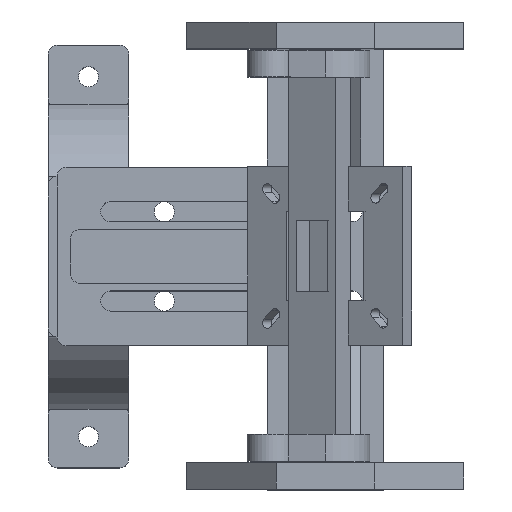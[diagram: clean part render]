
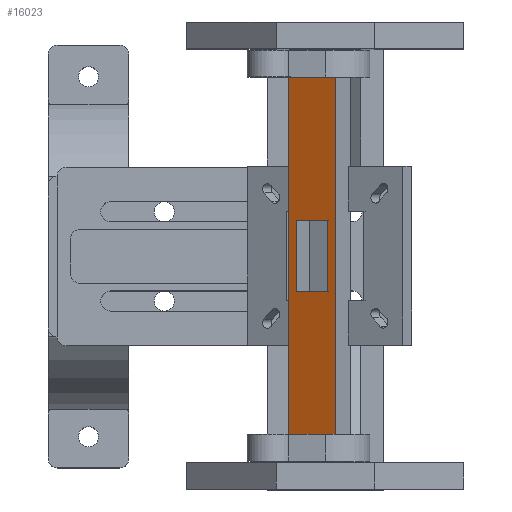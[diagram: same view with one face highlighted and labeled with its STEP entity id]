
A CAD part, top view. The second image highlights one B-rep face of the part: STEP entity #16023.
In plain terms, the highlighted planar face has unit normal (-0.5, 0, 0.866).
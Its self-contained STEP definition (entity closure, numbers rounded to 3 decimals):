
#13295 = PLANE('',#13296);
#13296 = AXIS2_PLACEMENT_3D('',#13297,#13298,#13299);
#13297 = CARTESIAN_POINT('',(10.196,-43.,123.496));
#13298 = DIRECTION('',(0.866,0.,0.5));
#13299 = DIRECTION('',(0.5,0.,-0.866));
#13682 = VERTEX_POINT('',#13683);
#13683 = CARTESIAN_POINT('',(10.196,40.,123.496));
#13697 = PLANE('',#13698);
#13698 = AXIS2_PLACEMENT_3D('',#13699,#13700,#13701);
#13699 = CARTESIAN_POINT('',(8.,40.,115.3));
#13700 = DIRECTION('',(-0.,-1.,0.));
#13701 = DIRECTION('',(-0.866,0.,-0.5));
#13709 = EDGE_CURVE('',#13710,#13682,#13712,.T.);
#13710 = VERTEX_POINT('',#13711);
#13711 = CARTESIAN_POINT('',(10.196,-40.,123.496));
#13712 = SURFACE_CURVE('',#13713,(#13717,#13724),.PCURVE_S1.);
#13713 = LINE('',#13714,#13715);
#13714 = CARTESIAN_POINT('',(10.196,-43.,123.496));
#13715 = VECTOR('',#13716,1.);
#13716 = DIRECTION('',(0.,1.,0.));
#13717 = PCURVE('',#13295,#13718);
#13718 = DEFINITIONAL_REPRESENTATION('',(#13719),#13723);
#13719 = LINE('',#13720,#13721);
#13720 = CARTESIAN_POINT('',(0.,0.));
#13721 = VECTOR('',#13722,1.);
#13722 = DIRECTION('',(0.,1.));
#13723 = ( GEOMETRIC_REPRESENTATION_CONTEXT(2) 
PARAMETRIC_REPRESENTATION_CONTEXT() REPRESENTATION_CONTEXT('2D SPACE',''
  ) );
#13724 = PCURVE('',#13725,#13730);
#13725 = PLANE('',#13726);
#13726 = AXIS2_PLACEMENT_3D('',#13727,#13728,#13729);
#13727 = CARTESIAN_POINT('',(-0.196,-43.,117.496));
#13728 = DIRECTION('',(0.5,0.,-0.866));
#13729 = DIRECTION('',(0.866,0.,0.5));
#13730 = DEFINITIONAL_REPRESENTATION('',(#13731),#13735);
#13731 = LINE('',#13732,#13733);
#13732 = CARTESIAN_POINT('',(12.,0.));
#13733 = VECTOR('',#13734,1.);
#13734 = DIRECTION('',(0.,-1.));
#13735 = ( GEOMETRIC_REPRESENTATION_CONTEXT(2) 
PARAMETRIC_REPRESENTATION_CONTEXT() REPRESENTATION_CONTEXT('2D SPACE',''
  ) );
#13753 = PLANE('',#13754);
#13754 = AXIS2_PLACEMENT_3D('',#13755,#13756,#13757);
#13755 = CARTESIAN_POINT('',(8.,-40.,115.3));
#13756 = DIRECTION('',(-0.,-1.,0.));
#13757 = DIRECTION('',(-0.866,0.,-0.5));
#13931 = PLANE('',#13932);
#13932 = AXIS2_PLACEMENT_3D('',#13933,#13934,#13935);
#13933 = CARTESIAN_POINT('',(-0.196,-43.,117.496));
#13934 = DIRECTION('',(0.866,0.,0.5));
#13935 = DIRECTION('',(0.5,0.,-0.866));
#14201 = VERTEX_POINT('',#14202);
#14202 = CARTESIAN_POINT('',(-0.196,40.,117.496));
#14223 = EDGE_CURVE('',#14224,#14201,#14226,.T.);
#14224 = VERTEX_POINT('',#14225);
#14225 = CARTESIAN_POINT('',(-0.196,-40.,117.496));
#14226 = SURFACE_CURVE('',#14227,(#14231,#14238),.PCURVE_S1.);
#14227 = LINE('',#14228,#14229);
#14228 = CARTESIAN_POINT('',(-0.196,-43.,117.496));
#14229 = VECTOR('',#14230,1.);
#14230 = DIRECTION('',(0.,1.,0.));
#14231 = PCURVE('',#13931,#14232);
#14232 = DEFINITIONAL_REPRESENTATION('',(#14233),#14237);
#14233 = LINE('',#14234,#14235);
#14234 = CARTESIAN_POINT('',(0.,0.));
#14235 = VECTOR('',#14236,1.);
#14236 = DIRECTION('',(0.,1.));
#14237 = ( GEOMETRIC_REPRESENTATION_CONTEXT(2) 
PARAMETRIC_REPRESENTATION_CONTEXT() REPRESENTATION_CONTEXT('2D SPACE',''
  ) );
#14238 = PCURVE('',#13725,#14239);
#14239 = DEFINITIONAL_REPRESENTATION('',(#14240),#14244);
#14240 = LINE('',#14241,#14242);
#14241 = CARTESIAN_POINT('',(0.,0.));
#14242 = VECTOR('',#14243,1.);
#14243 = DIRECTION('',(0.,-1.));
#14244 = ( GEOMETRIC_REPRESENTATION_CONTEXT(2) 
PARAMETRIC_REPRESENTATION_CONTEXT() REPRESENTATION_CONTEXT('2D SPACE',''
  ) );
#16002 = EDGE_CURVE('',#13682,#14201,#16003,.T.);
#16003 = SURFACE_CURVE('',#16004,(#16008,#16015),.PCURVE_S1.);
#16004 = LINE('',#16005,#16006);
#16005 = CARTESIAN_POINT('',(2.402,40.,118.996));
#16006 = VECTOR('',#16007,1.);
#16007 = DIRECTION('',(-0.866,0.,-0.5));
#16008 = PCURVE('',#13697,#16009);
#16009 = DEFINITIONAL_REPRESENTATION('',(#16010),#16014);
#16010 = LINE('',#16011,#16012);
#16011 = CARTESIAN_POINT('',(3.,-6.));
#16012 = VECTOR('',#16013,1.);
#16013 = DIRECTION('',(1.,0.));
#16014 = ( GEOMETRIC_REPRESENTATION_CONTEXT(2) 
PARAMETRIC_REPRESENTATION_CONTEXT() REPRESENTATION_CONTEXT('2D SPACE',''
  ) );
#16015 = PCURVE('',#13725,#16016);
#16016 = DEFINITIONAL_REPRESENTATION('',(#16017),#16021);
#16017 = LINE('',#16018,#16019);
#16018 = CARTESIAN_POINT('',(3.,-83.));
#16019 = VECTOR('',#16020,1.);
#16020 = DIRECTION('',(-1.,-0.));
#16021 = ( GEOMETRIC_REPRESENTATION_CONTEXT(2) 
PARAMETRIC_REPRESENTATION_CONTEXT() REPRESENTATION_CONTEXT('2D SPACE',''
  ) );
#16023 = ADVANCED_FACE('',(#16024,#16050),#13725,.F.);
#16024 = FACE_BOUND('',#16025,.F.);
#16025 = EDGE_LOOP('',(#16026,#16027,#16048,#16049));
#16026 = ORIENTED_EDGE('',*,*,#13709,.F.);
#16027 = ORIENTED_EDGE('',*,*,#16028,.T.);
#16028 = EDGE_CURVE('',#13710,#14224,#16029,.T.);
#16029 = SURFACE_CURVE('',#16030,(#16034,#16041),.PCURVE_S1.);
#16030 = LINE('',#16031,#16032);
#16031 = CARTESIAN_POINT('',(2.402,-40.,118.996));
#16032 = VECTOR('',#16033,1.);
#16033 = DIRECTION('',(-0.866,0.,-0.5));
#16034 = PCURVE('',#13725,#16035);
#16035 = DEFINITIONAL_REPRESENTATION('',(#16036),#16040);
#16036 = LINE('',#16037,#16038);
#16037 = CARTESIAN_POINT('',(3.,-3.));
#16038 = VECTOR('',#16039,1.);
#16039 = DIRECTION('',(-1.,-0.));
#16040 = ( GEOMETRIC_REPRESENTATION_CONTEXT(2) 
PARAMETRIC_REPRESENTATION_CONTEXT() REPRESENTATION_CONTEXT('2D SPACE',''
  ) );
#16041 = PCURVE('',#13753,#16042);
#16042 = DEFINITIONAL_REPRESENTATION('',(#16043),#16047);
#16043 = LINE('',#16044,#16045);
#16044 = CARTESIAN_POINT('',(3.,-6.));
#16045 = VECTOR('',#16046,1.);
#16046 = DIRECTION('',(1.,0.));
#16047 = ( GEOMETRIC_REPRESENTATION_CONTEXT(2) 
PARAMETRIC_REPRESENTATION_CONTEXT() REPRESENTATION_CONTEXT('2D SPACE',''
  ) );
#16048 = ORIENTED_EDGE('',*,*,#14223,.T.);
#16049 = ORIENTED_EDGE('',*,*,#16002,.F.);
#16050 = FACE_BOUND('',#16051,.F.);
#16051 = EDGE_LOOP('',(#16052,#16082,#16110,#16138));
#16052 = ORIENTED_EDGE('',*,*,#16053,.T.);
#16053 = EDGE_CURVE('',#16054,#16056,#16058,.T.);
#16054 = VERTEX_POINT('',#16055);
#16055 = CARTESIAN_POINT('',(1.536,8.,118.496));
#16056 = VERTEX_POINT('',#16057);
#16057 = CARTESIAN_POINT('',(1.536,-8.,118.496));
#16058 = SURFACE_CURVE('',#16059,(#16063,#16070),.PCURVE_S1.);
#16059 = LINE('',#16060,#16061);
#16060 = CARTESIAN_POINT('',(1.536,-25.5,118.496));
#16061 = VECTOR('',#16062,1.);
#16062 = DIRECTION('',(0.,-1.,0.));
#16063 = PCURVE('',#13725,#16064);
#16064 = DEFINITIONAL_REPRESENTATION('',(#16065),#16069);
#16065 = LINE('',#16066,#16067);
#16066 = CARTESIAN_POINT('',(2.,-17.5));
#16067 = VECTOR('',#16068,1.);
#16068 = DIRECTION('',(0.,1.));
#16069 = ( GEOMETRIC_REPRESENTATION_CONTEXT(2) 
PARAMETRIC_REPRESENTATION_CONTEXT() REPRESENTATION_CONTEXT('2D SPACE',''
  ) );
#16070 = PCURVE('',#16071,#16076);
#16071 = PLANE('',#16072);
#16072 = AXIS2_PLACEMENT_3D('',#16073,#16074,#16075);
#16073 = CARTESIAN_POINT('',(1.036,-8.,119.362));
#16074 = DIRECTION('',(0.866,0.,0.5));
#16075 = DIRECTION('',(0.5,0.,-0.866));
#16076 = DEFINITIONAL_REPRESENTATION('',(#16077),#16081);
#16077 = LINE('',#16078,#16079);
#16078 = CARTESIAN_POINT('',(1.,-17.5));
#16079 = VECTOR('',#16080,1.);
#16080 = DIRECTION('',(0.,-1.));
#16081 = ( GEOMETRIC_REPRESENTATION_CONTEXT(2) 
PARAMETRIC_REPRESENTATION_CONTEXT() REPRESENTATION_CONTEXT('2D SPACE',''
  ) );
#16082 = ORIENTED_EDGE('',*,*,#16083,.T.);
#16083 = EDGE_CURVE('',#16056,#16084,#16086,.T.);
#16084 = VERTEX_POINT('',#16085);
#16085 = CARTESIAN_POINT('',(8.464,-8.,122.496));
#16086 = SURFACE_CURVE('',#16087,(#16091,#16098),.PCURVE_S1.);
#16087 = LINE('',#16088,#16089);
#16088 = CARTESIAN_POINT('',(0.67,-8.,117.996));
#16089 = VECTOR('',#16090,1.);
#16090 = DIRECTION('',(0.866,0.,0.5));
#16091 = PCURVE('',#13725,#16092);
#16092 = DEFINITIONAL_REPRESENTATION('',(#16093),#16097);
#16093 = LINE('',#16094,#16095);
#16094 = CARTESIAN_POINT('',(1.,-35.));
#16095 = VECTOR('',#16096,1.);
#16096 = DIRECTION('',(1.,0.));
#16097 = ( GEOMETRIC_REPRESENTATION_CONTEXT(2) 
PARAMETRIC_REPRESENTATION_CONTEXT() REPRESENTATION_CONTEXT('2D SPACE',''
  ) );
#16098 = PCURVE('',#16099,#16104);
#16099 = PLANE('',#16100);
#16100 = AXIS2_PLACEMENT_3D('',#16101,#16102,#16103);
#16101 = CARTESIAN_POINT('',(1.036,-8.,119.362));
#16102 = DIRECTION('',(0.,1.,0.));
#16103 = DIRECTION('',(0.866,0.,0.5));
#16104 = DEFINITIONAL_REPRESENTATION('',(#16105),#16109);
#16105 = LINE('',#16106,#16107);
#16106 = CARTESIAN_POINT('',(-1.,1.));
#16107 = VECTOR('',#16108,1.);
#16108 = DIRECTION('',(1.,0.));
#16109 = ( GEOMETRIC_REPRESENTATION_CONTEXT(2) 
PARAMETRIC_REPRESENTATION_CONTEXT() REPRESENTATION_CONTEXT('2D SPACE',''
  ) );
#16110 = ORIENTED_EDGE('',*,*,#16111,.F.);
#16111 = EDGE_CURVE('',#16112,#16084,#16114,.T.);
#16112 = VERTEX_POINT('',#16113);
#16113 = CARTESIAN_POINT('',(8.464,8.,122.496));
#16114 = SURFACE_CURVE('',#16115,(#16119,#16126),.PCURVE_S1.);
#16115 = LINE('',#16116,#16117);
#16116 = CARTESIAN_POINT('',(8.464,-25.5,122.496));
#16117 = VECTOR('',#16118,1.);
#16118 = DIRECTION('',(0.,-1.,0.));
#16119 = PCURVE('',#13725,#16120);
#16120 = DEFINITIONAL_REPRESENTATION('',(#16121),#16125);
#16121 = LINE('',#16122,#16123);
#16122 = CARTESIAN_POINT('',(10.,-17.5));
#16123 = VECTOR('',#16124,1.);
#16124 = DIRECTION('',(0.,1.));
#16125 = ( GEOMETRIC_REPRESENTATION_CONTEXT(2) 
PARAMETRIC_REPRESENTATION_CONTEXT() REPRESENTATION_CONTEXT('2D SPACE',''
  ) );
#16126 = PCURVE('',#16127,#16132);
#16127 = PLANE('',#16128);
#16128 = AXIS2_PLACEMENT_3D('',#16129,#16130,#16131);
#16129 = CARTESIAN_POINT('',(7.964,-8.,123.362));
#16130 = DIRECTION('',(0.866,0.,0.5));
#16131 = DIRECTION('',(0.5,0.,-0.866));
#16132 = DEFINITIONAL_REPRESENTATION('',(#16133),#16137);
#16133 = LINE('',#16134,#16135);
#16134 = CARTESIAN_POINT('',(1.,-17.5));
#16135 = VECTOR('',#16136,1.);
#16136 = DIRECTION('',(0.,-1.));
#16137 = ( GEOMETRIC_REPRESENTATION_CONTEXT(2) 
PARAMETRIC_REPRESENTATION_CONTEXT() REPRESENTATION_CONTEXT('2D SPACE',''
  ) );
#16138 = ORIENTED_EDGE('',*,*,#16139,.F.);
#16139 = EDGE_CURVE('',#16054,#16112,#16140,.T.);
#16140 = SURFACE_CURVE('',#16141,(#16145,#16152),.PCURVE_S1.);
#16141 = LINE('',#16142,#16143);
#16142 = CARTESIAN_POINT('',(0.67,8.,117.996));
#16143 = VECTOR('',#16144,1.);
#16144 = DIRECTION('',(0.866,0.,0.5));
#16145 = PCURVE('',#13725,#16146);
#16146 = DEFINITIONAL_REPRESENTATION('',(#16147),#16151);
#16147 = LINE('',#16148,#16149);
#16148 = CARTESIAN_POINT('',(1.,-51.));
#16149 = VECTOR('',#16150,1.);
#16150 = DIRECTION('',(1.,0.));
#16151 = ( GEOMETRIC_REPRESENTATION_CONTEXT(2) 
PARAMETRIC_REPRESENTATION_CONTEXT() REPRESENTATION_CONTEXT('2D SPACE',''
  ) );
#16152 = PCURVE('',#16153,#16158);
#16153 = PLANE('',#16154);
#16154 = AXIS2_PLACEMENT_3D('',#16155,#16156,#16157);
#16155 = CARTESIAN_POINT('',(1.036,8.,119.362));
#16156 = DIRECTION('',(0.,1.,0.));
#16157 = DIRECTION('',(0.866,0.,0.5));
#16158 = DEFINITIONAL_REPRESENTATION('',(#16159),#16163);
#16159 = LINE('',#16160,#16161);
#16160 = CARTESIAN_POINT('',(-1.,1.));
#16161 = VECTOR('',#16162,1.);
#16162 = DIRECTION('',(1.,0.));
#16163 = ( GEOMETRIC_REPRESENTATION_CONTEXT(2) 
PARAMETRIC_REPRESENTATION_CONTEXT() REPRESENTATION_CONTEXT('2D SPACE',''
  ) );
